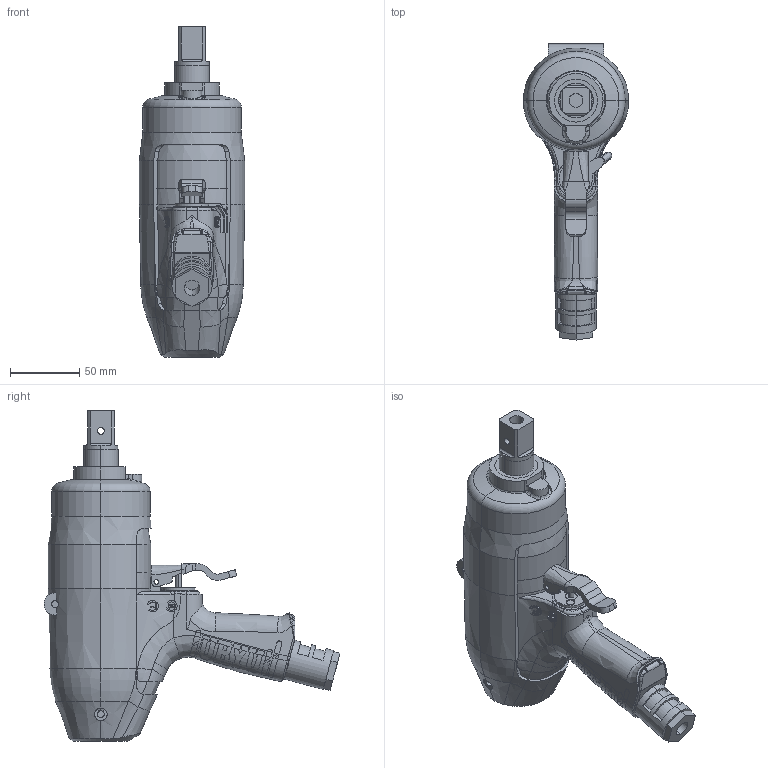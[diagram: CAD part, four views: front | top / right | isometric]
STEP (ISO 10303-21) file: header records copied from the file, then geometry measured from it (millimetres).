
FILE_DESCRIPTION (( 'STEP AP214' ), '1' );
FILE_NAME ('UAT150.STEP', '2019-11-07T01:33:09', ( 'GIKAI' ), ( 'Hewlett-Packard Company' ), 'SwSTEP 2.0', 'SolidWorks 2015', '' );
FILE_SCHEMA (( 'AUTOMOTIVE_DESIGN' ));
Length unit declared in the file: millimetre
Products named in the file (9): 1301042_ULT150; 1308404_ULT150; 1308422_UAT150; 1301072_ULT150; 1302122_ULT150; 1300254_UAT150; 1304394_ULT150; 1303194_ULT150; UAT150
Assembly tree (8 placements, depth 2):
  UAT150
    1303194_ULT150
    1304394_ULT150
    1300254_UAT150
    1302122_ULT150
    1301072_ULT150
    1308422_UAT150
    1308404_ULT150
    1301042_ULT150
Bounding box: 76 x 213.55 x 238.5 mm (x, y, z)
Volume: 931897.9 mm3; surface area: 187033.2 mm2
Topology: 8 solids, 8 shells, 1316 faces, 3598 edges, 2321 vertices
Faces by surface type: plane 738, bspline 266, cylinder 229, cone 57, torus 24, sphere 2
Entity records: 68920 total; most frequent: CARTESIAN_POINT 32551, ORIENTED_EDGE 7184, DIRECTION 4466, EDGE_CURVE 3592, VERTEX_POINT 2321, B_SPLINE_CURVE_WITH_KNOTS 1678, AXIS2_PLACEMENT_3D 1591, EDGE_LOOP 1373
